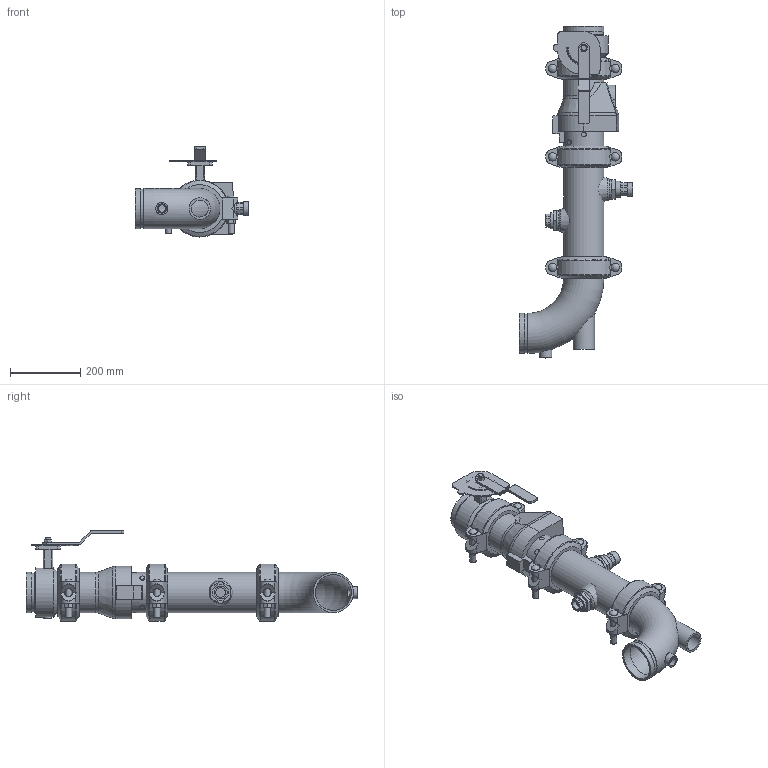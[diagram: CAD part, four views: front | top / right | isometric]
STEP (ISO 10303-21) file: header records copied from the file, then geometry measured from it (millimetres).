
FILE_DESCRIPTION(/* description */ ('VIC DVI PUMP DROP HORZ S/380G (OGSxOGS)','CAx-IF Rec.Pracs.---Representation and Presentation of Product Manufacturing Information (PMI)---4.0---2014-10-13'),/* implementation_level */ '2;1');
FILE_NAME(/* name */ 'C:\Users\kkamble\AppData\Roaming\Autodesk\ApplicationPlugins\Victaulic.Temp\A789\Victaulic_IPS_Horizontal DVI_CL 150_Series 380 (OGSxOGS)_924 (0.75)_04.0x04.0 (100x100).stp',/* time_stamp */ '2021-07-06T09:52:44+05:00',/* author */ ('Vjadhav'),/* organization */ ('Victaulic'),/* preprocessor_version */ 'ST-DEVELOPER v17.2',/* originating_system */ 'Autodesk Inventor 2019',/* authorisation */ '');
FILE_SCHEMA (('AP242_MANAGED_MODEL_BASED_3D_ENGINEERING_MIM_LF { 1 0 10303 442 1 1 4 }'));
Length unit declared in the file: inch
Products named in the file (8): 380_924 (0.75)-04.0x04.0; Pipe-04.0x04.0; 761-04.0; 177N-04.0; 924-04.0x0.75; 923-04.0x0.75; 779-04.0; 100G-04.0
Assembly tree (9 placements, depth 2):
  380_924 (0.75)-04.0x04.0
    177N-04.0  x3
    Pipe-04.0x04.0
    761-04.0
    924-04.0x0.75
    923-04.0x0.75
    779-04.0
    100G-04.0
Bounding box: 323.6 x 942.98 x 256.03 mm (x, y, z)
Volume: 6148850.1 mm3; surface area: 1191195.4 mm2
Topology: 9 solids, 10 shells, 595 faces, 1565 edges, 1038 vertices
Faces by surface type: plane 341, cylinder 207, torus 21, cone 18, sphere 6, bspline 2
Full cylindrical faces by diameter (mm): 4.826 x10, 8.636 x4, 13.716 x2, 14.986 x2, 17.424 x6, 20.93 x1, 22.86 x1, 23.495 x6, 26.67 x4, 34.29 x1, 38.608 x1, 45.974 x4, 48.26 x1, 55.118 x1, 55.626 x2, 60.96 x1, 101.6 x3, 102.26 x5, 110.084 x8, 114.3 x19, 139.7 x1
Entity records: 13980 total; most frequent: CARTESIAN_POINT 2960, DIRECTION 2269, ORIENTED_EDGE 2078, EDGE_CURVE 1039, AXIS2_PLACEMENT_3D 863, VERTEX_POINT 694, LINE 543, VECTOR 543
